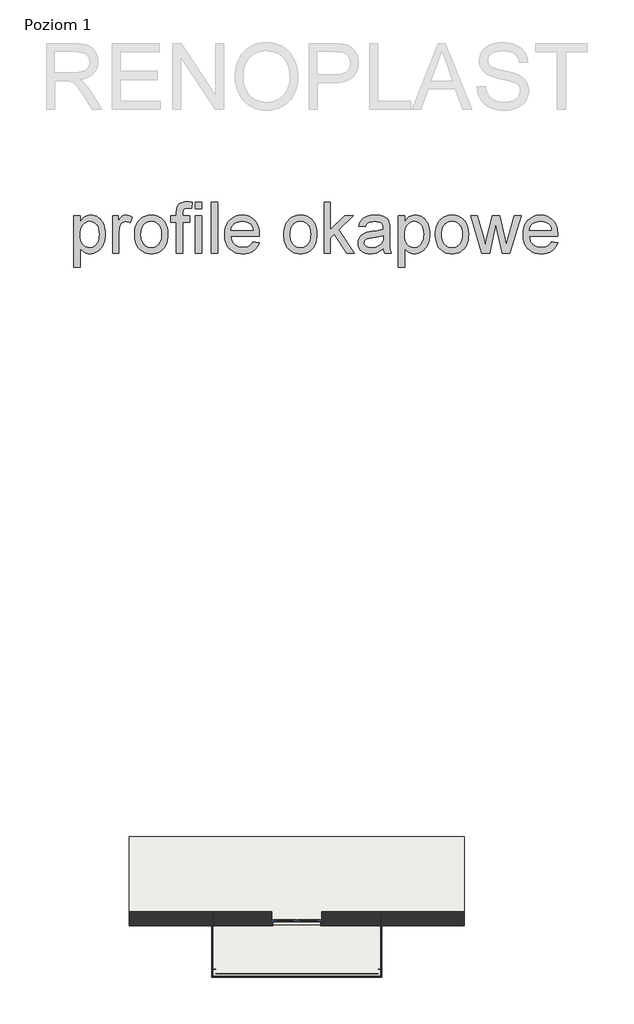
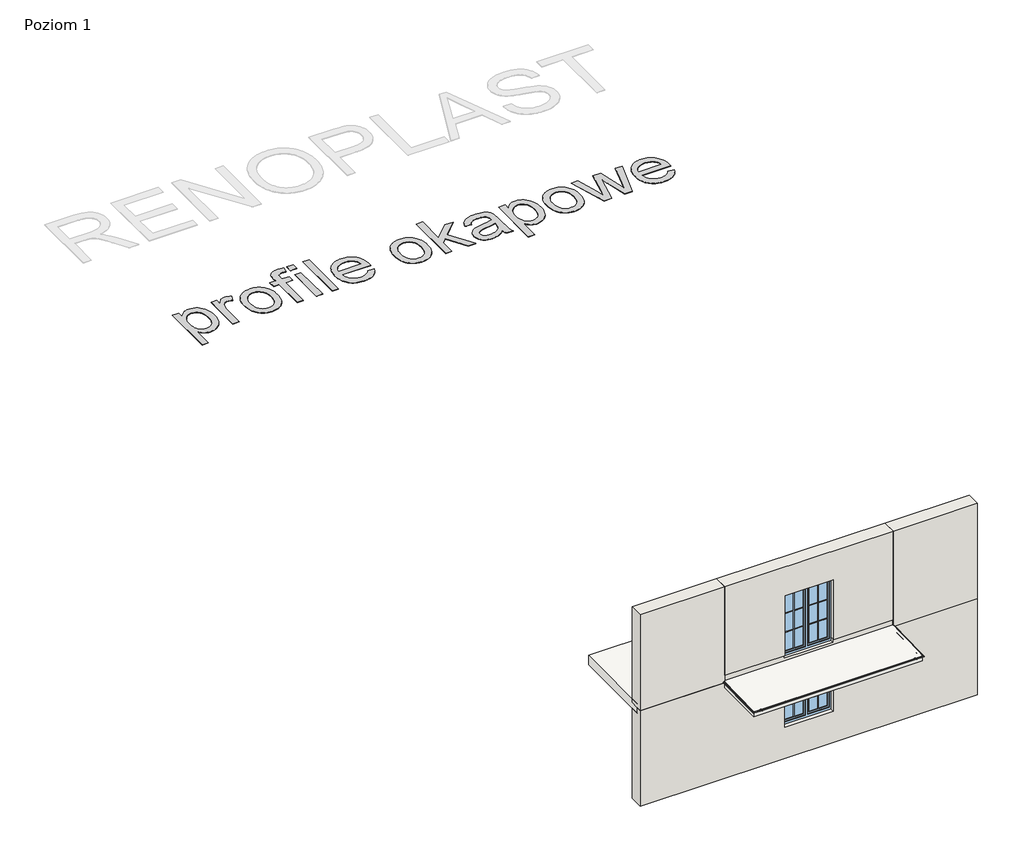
# One storey, part 1 of 2: 6 proxies, 5 walls, 3 slabs, 2 windows.
"""IFC4 building model written with IfcOpenShell, lengths in millimetres."""

from ifc_helpers import new_model, si_unit, origin, origin_with_axes, place, context, project, spatial, polyline, outline, extrude, faceted_brep, transform, mapped, element, save
from components import generic_models_af526118, generic_models_eb490aad, k20_9d933942, k20_2974e2ec, k20_afda6247, window_150x150_51b7f79a, window_150x200_12b14935

model = new_model("IFC4")

# Units and contexts
model_context = context("Model", 3, world=origin())
ifc_project = project(units=[si_unit("LENGTHUNIT", "METRE", prefix="MILLI")], contexts=[model_context])

# Site, building, storey
site = spatial("IfcSite", under=ifc_project)
building = spatial("IfcBuilding", under=site)
storey = spatial("IfcBuildingStorey", under=building, Name="Poziom 1", Elevation=0.0)

# Proxies
placement = place(None, origin())
generic_models_shape = generic_models_af526118(model_context)
element("IfcBuildingElementProxy", 1, Name="Odbojnik - OPK20 : Odbojnik - OPK20", ObjectType="Odbojnik - OPK20 : Odbojnik - OPK20", at=placement, inside=storey, context=model_context, shape_type="MappedRepresentation", body=[
    mapped(generic_models_shape, transform((-86485.0900811, 32535.0974799, -112.1027843), x_axis=(0.0, 0.9998044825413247, 0.019773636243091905), y_axis=(-1.0000000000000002, 0.0, 0.0), z_axis=(0.0, -0.019773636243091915, 0.9998044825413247))),
])
generic_models_2_shape = generic_models_eb490aad(model_context)
element("IfcBuildingElementProxy", 2, Name="Odbojnik - OPK20 : Odbojnik - OPK20", ObjectType="Odbojnik - OPK20 : Odbojnik - OPK20", at=placement, inside=storey, context=model_context, shape_type="MappedRepresentation", body=[
    mapped(generic_models_2_shape, transform((-91537.0894912, 32534.794121, -112.108784), x_axis=(0.0, 0.9998044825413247, 0.019773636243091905), y_axis=(-1.0000000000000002, 0.0, 0.0), z_axis=(0.0, -0.019773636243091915, 0.9998044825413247))),
])
element("IfcBuildingElementProxy", 3, Name="1500 mm Arial", ObjectType="1500 mm Arial", at=placement, inside=storey, context=model_context, shape_type="SweptSolid", body=[
    extrude(outline(polyline([(-95661.6221224, 52181.1583137), (-95661.6221224, 53711.5474137), (-95473.2665409, 53711.5474137), (-95473.2665409, 53526.8706521), (-95443.4680993, 53575.672498), (-95411.8302477, 53617.9674312), (-95378.3529862, 53653.7554515), (-95343.0363146, 53683.036559), (-95304.8685576, 53705.8107538), (-95262.8380397, 53722.0780358), (-95216.9447608, 53731.838405), (-95167.1887209, 53735.0918614), (-95101.4987922, 53730.5393217), (-95039.8095801, 53716.8817026), (-94982.1210847, 53694.1190042), (-94928.4333061, 53662.2512263), (-94879.9188679, 53622.1061036), (-94837.7503942, 53574.5113705), (-94801.927885, 53519.4670269), (-94772.4513401, 53456.973073), (-94749.4357228, 53389.1678228), (-94732.9959961, 53318.1895903), (-94723.1321601, 53244.0383757), (-94719.8442148, 53166.7141788), (-94723.5575237, 53084.0441967), (-94734.6974503, 53005.6278502), (-94753.2639948, 52931.4651392), (-94779.257157, 52861.5560638), (-94812.3205513, 52797.7285377), (-94852.0977921, 52741.8104744), (-94898.5888792, 52693.801874), (-94951.7938128, 52653.7027365), (-95009.1029298, 52622.0763813), (-95067.9065675, 52599.4861275), (-95128.2047258, 52585.9319752), (-95189.9974046, 52581.4139245), (-95234.4536445, 52584.4374546), (-95276.5876292, 52593.5080451), (-95316.3993589, 52608.6256958), (-95353.8888335, 52629.7904069), (-95388.5962005, 52655.5766355), (-95420.0616074, 52684.5588389), (-95448.2850542, 52716.7370172), (-95473.2665409, 52752.1111703), (-95473.2665409, 52181.1583137), (-95661.6221224, 52181.1583137)]), holes=[polyline([(-95473.2665409, 53149.423725), (-95468.1736745, 53058.6488427), (-95452.8950754, 52980.5658893), (-95441.4361261, 52946.2838858), (-95427.4307436, 52915.1748646), (-95410.8789279, 52887.2388256), (-95391.780679, 52862.4757688), (-95348.864945, 52821.9167788), (-95301.6036049, 52792.9460717), (-95249.9966588, 52775.5636474), (-95194.0441066, 52769.769506), (-95137.2868125, 52775.7705811), (-95110.4860343, 52783.2719249), (-95084.7371688, 52793.7738062), (-95036.3951753, 52823.7791814), (-94992.2608322, 52865.7867068), (-94972.5590269, 52891.4407278), (-94955.484129, 52920.3941904), (-94941.0361385, 52952.6470947), (-94929.2150553, 52988.1994407), (-94920.0208795, 53027.0512282), (-94913.4536111, 53069.2024575), (-94908.1997963, 53163.4032409), (-94913.3271516, 53253.3963739), (-94928.7092176, 53331.3413717), (-94940.245767, 53365.7958198), (-94954.3459941, 53397.238234), (-94971.0098988, 53425.6686145), (-94990.2374812, 53451.0869611), (-95033.2566821, 53492.933538), (-95080.2765996, 53522.8239501), (-95131.2972338, 53540.7581974), (-95186.3185847, 53546.7362798), (-95214.1482828, 53545.1469147), (-95241.1674909, 53540.3788191), (-95267.376209, 53532.4319932), (-95292.774437, 53521.3064369), (-95341.1394231, 53489.5191333), (-95386.2624491, 53445.0169082), (-95406.6540331, 53418.1471521), (-95424.3267392, 53388.3975698), (-95439.2805675, 53355.7681613), (-95451.515518, 53320.2589266), (-95461.0315905, 53281.8698655), (-95467.8287852, 53240.6009783), (-95473.2665409, 53149.423725)])]), origin_with_axes(), (0.0, 0.0, 1.0), 10.0),
    extrude(outline(polyline([(-94507.9441856, 52604.9583722), (-94507.9441856, 53711.5474137), (-94343.1330517, 53711.5474137), (-94343.1330517, 53547.8399258), (-94312.0930084, 53600.1711396), (-94282.2485815, 53642.7534806), (-94253.5997712, 53675.5869486), (-94226.1465773, 53698.6715438), (-94198.6473981, 53714.6054328), (-94169.860632, 53725.986782), (-94139.7862789, 53732.8155915), (-94108.4243388, 53735.0918614), (-94061.7033254, 53731.4590267), (-94014.61443, 53720.5605226), (-93967.1576527, 53702.396349), (-93919.3329933, 53676.9665061), (-93982.2408145, 53508.1086703), (-94015.350194, 53525.0082495), (-94048.4595736, 53537.0793775), (-94081.5689532, 53544.3220542), (-94114.6783327, 53546.7362798), (-94143.545573, 53544.4140247), (-94170.9182927, 53537.4472595), (-94196.7964918, 53525.835984), (-94221.1801703, 53509.5801983), (-94243.1496232, 53489.2087328), (-94261.7851455, 53465.2504179), (-94277.0867373, 53437.7052535), (-94289.0543984, 53406.5732397), (-94302.4131134, 53355.1617308), (-94311.9550526, 53301.3589891), (-94317.6802162, 53245.1650143), (-94319.588604, 53186.5798066), (-94319.588604, 52604.9583722), (-94507.9441856, 52604.9583722)])), origin_with_axes(), (0.0, 0.0, 1.0), 10.0),
    extrude(outline(polyline([(-93848.6996502, 53158.2528929), (-93846.153217, 53232.3868631), (-93838.5139175, 53301.5659227), (-93825.7817515, 53365.7900716), (-93807.9567192, 53425.0593099), (-93785.0388206, 53479.3736376), (-93757.0280555, 53528.7330547), (-93723.9244241, 53573.1375611), (-93685.7279264, 53612.587157), (-93650.7676405, 53641.2991971), (-93613.944952, 53666.1829651), (-93575.259861, 53687.2384612), (-93534.7123673, 53704.4656853), (-93492.3024711, 53717.8646373), (-93448.0301722, 53727.4353173), (-93401.8954708, 53733.1777254), (-93353.8983667, 53735.0918614), (-93300.6963072, 53732.760984), (-93249.9831994, 53725.768352), (-93201.7590432, 53714.1139654), (-93156.0238385, 53697.7978241), (-93112.7775856, 53676.8199281), (-93072.0202842, 53651.1802775), (-93033.7519345, 53620.8788723), (-92997.9725364, 53585.9157123), (-92965.5960467, 53546.8426207), (-92937.5364223, 53504.2114205), (-92913.7936633, 53458.0221115), (-92894.3677695, 53408.2746939), (-92879.258741, 53354.9691676), (-92868.4665778, 53298.1055327), (-92861.9912798, 53237.683789), (-92859.8328472, 53173.7039367), (-92863.6496229, 53072.8812774), (-92875.09995, 52983.4169747), (-92894.1838285, 52905.3110286), (-92920.9012584, 52838.5634391), (-92954.9188466, 52780.9094327), (-92995.9032001, 52730.0842358), (-93043.854319, 52686.0878484), (-93098.772203, 52648.9202706), (-93158.5185383, 52619.3862442), (-93220.9550107, 52598.290511), (-93286.0816202, 52585.6330711), (-93353.8983667, 52581.4139245), (-93407.939657, 52583.7361796), (-93459.3310473, 52590.7029449), (-93508.0725375, 52602.3142203), (-93554.1641278, 52618.570006), (-93597.6058181, 52639.4703019), (-93638.3976084, 52665.0151079), (-93676.5394987, 52695.2044241), (-93712.031489, 52730.0382505), (-93744.0630893, 52769.2406757), (-93771.8238095, 52812.535788), (-93795.3136497, 52859.9235875), (-93814.5326099, 52911.4040742), (-93829.48069, 52966.9772481), (-93840.1578901, 53026.6431092), (-93846.5642102, 53090.4016574), (-93848.6996502, 53158.2528929)]), holes=[polyline([(-93660.3440687, 53158.6207749), (-93654.8948166, 53067.2595807), (-93648.0832516, 53026.1746344), (-93638.5470605, 52988.1534554), (-93626.2862433, 52953.1960436), (-93611.3008002, 52921.3023991), (-93593.590731, 52892.4725218), (-93573.1560358, 52866.7064118), (-93550.6577526, 52843.9868245), (-93526.7569192, 52824.2965155), (-93501.4535357, 52807.6354848), (-93474.7476021, 52794.0037325), (-93446.6391184, 52783.4012584), (-93417.1280846, 52775.8280626), (-93353.8983667, 52769.769506), (-93290.9905455, 52775.8625516), (-93261.6059712, 52783.4788585), (-93233.6009543, 52794.1416882), (-93206.9754949, 52807.8510407), (-93181.729593, 52824.6069159), (-93157.8632485, 52844.4093139), (-93135.3764616, 52867.2582347), (-93114.9417664, 52893.2284043), (-93097.2316972, 52922.3945488), (-93082.246254, 52954.756668), (-93069.9854369, 52990.3147621), (-93060.4492458, 53029.0688311), (-93053.6376808, 53071.0188748), (-93048.1884287, 53164.5068868), (-93053.6721697, 53252.9710104), (-93060.5268459, 53292.9178217), (-93070.1233927, 53330.0077994), (-93082.4618099, 53364.2409435), (-93097.5420976, 53395.617254), (-93115.3642558, 53424.1367309), (-93135.9282846, 53449.7993741), (-93182.4538606, 53492.2092704), (-93207.7083848, 53508.870301), (-93234.290733, 53522.5020534), (-93262.2009053, 53533.1045275), (-93291.4389017, 53540.6777232), (-93353.8983667, 53546.7362798), (-93417.1280846, 53540.7007159), (-93446.6391184, 53533.1562609), (-93474.7476021, 53522.5940239), (-93501.4535357, 53509.0140049), (-93526.7569192, 53492.416204), (-93550.6577526, 53472.800621), (-93573.1560358, 53450.1672561), (-93593.590731, 53424.4873684), (-93611.3008002, 53395.7322171), (-93626.2862433, 53363.9018023), (-93638.5470605, 53328.9961239), (-93648.0832516, 53291.015182), (-93654.8948166, 53249.9589765), (-93660.3440687, 53158.6207749)])]), origin_with_axes(), (0.0, 0.0, 1.0), 10.0),
    extrude(outline(polyline([(-92600.8439226, 52604.9583722), (-92600.8439226, 53523.1918321), (-92765.6550564, 53523.1918321), (-92765.6550564, 53711.5474137), (-92600.8439226, 53711.5474137), (-92600.8439226, 53823.0156582), (-92595.8775156, 53915.2620685), (-92589.669507, 53951.1075704), (-92580.9782948, 53980.1012702), (-92564.6075461, 54013.0497013), (-92543.0864493, 54042.7331798), (-92516.4150047, 54069.1517056), (-92484.5932121, 54092.3052787), (-92446.9312928, 54111.1362383), (-92402.7394682, 54124.5869238), (-92352.0177381, 54132.657335), (-92294.7661026, 54135.3474721), (-92213.0043292, 54130.1971242), (-92122.9652108, 54114.7460804), (-92150.5563605, 53938.1627227), (-92206.3824532, 53944.7845986), (-92259.0815491, 53946.9918906), (-92297.9505811, 53945.0375175), (-92330.6805824, 53939.1743982), (-92357.2715528, 53929.4025327), (-92377.7234925, 53915.721921), (-92392.9331137, 53896.7070204), (-92403.7971289, 53870.9322881), (-92410.315538, 53838.3977241), (-92412.488341, 53799.1033285), (-92412.488341, 53711.5474137), (-92200.5883118, 53711.5474137), (-92200.5883118, 53523.1918321), (-92412.488341, 53523.1918321), (-92412.488341, 52604.9583722), (-92600.8439226, 52604.9583722)])), origin_with_axes(), (0.0, 0.0, 1.0), 10.0),
    extrude(outline(polyline([(-92035.777178, 52604.9583722), (-92035.777178, 53711.5474137), (-91847.4215965, 53711.5474137), (-91847.4215965, 52604.9583722), (-92035.777178, 52604.9583722)])), origin_with_axes(), (0.0, 0.0, 1.0), 10.0),
    extrude(outline(polyline([(-92035.777178, 53923.4474429), (-92035.777178, 54111.8030244), (-91847.4215965, 54111.8030244), (-91847.4215965, 53923.4474429), (-92035.777178, 53923.4474429)])), origin_with_axes(), (0.0, 0.0, 1.0), 10.0),
    extrude(outline(polyline([(-91564.8882242, 52604.9583722), (-91564.8882242, 54111.8030244), (-91376.5326426, 54111.8030244), (-91376.5326426, 52604.9583722), (-91564.8882242, 52604.9583722)])), origin_with_axes(), (0.0, 0.0, 1.0), 10.0),
    extrude(outline(polyline([(-90319.2397885, 52934.5806399), (-90134.5630269, 52911.0361922), (-90162.8784442, 52837.0689185), (-90180.7523359, 52803.3789752), (-90201.1036828, 52771.8848275), (-90223.932485, 52742.5864755), (-90249.2387426, 52715.4839191), (-90277.0224555, 52690.5771584), (-90307.2836236, 52667.8661934), (-90339.8727951, 52647.6039428), (-90374.6405177, 52630.0433257), (-90411.5867915, 52615.184342), (-90450.7116165, 52603.0269917), (-90535.4969201, 52586.8171913), (-90628.9964284, 52581.4139245), (-90689.0244234, 52583.7448018), (-90745.8679398, 52590.7374338), (-90799.5269777, 52602.3918205), (-90850.001537, 52618.7079618), (-90897.2916179, 52639.6858577), (-90941.3972202, 52665.3255083), (-90982.318344, 52695.6269136), (-91020.0549893, 52730.5900735), (-91053.94037, 52769.7608838), (-91083.3076998, 52812.68524), (-91108.156979, 52859.3631422), (-91128.4882074, 52909.7945904), (-91144.301385, 52963.9795846), (-91155.5965119, 53021.9181248), (-91162.373588, 53083.6102109), (-91164.6326134, 53149.055843), (-91162.3505954, 53216.7288857), (-91155.5045414, 53280.5046785), (-91144.0944514, 53340.3832213), (-91128.1203254, 53396.3645143), (-91107.5821634, 53448.4485574), (-91082.4799654, 53496.6353506), (-91052.8137313, 53540.9248939), (-91018.5834613, 53581.3171874), (-90980.7146084, 53617.3581266), (-90940.1326258, 53648.5936072), (-90896.8375135, 53675.0236293), (-90850.8292715, 53696.6481929), (-90802.1078998, 53713.4672978), (-90750.6733983, 53725.4809442), (-90696.5257672, 53732.6891321), (-90639.6650063, 53735.0918614), (-90584.6637739, 53732.6948802), (-90532.2319674, 53725.5039369), (-90482.3695866, 53713.5190312), (-90435.0766317, 53696.7401634), (-90390.3531026, 53675.1673332), (-90348.1989993, 53648.8005409), (-90308.6143218, 53617.6397862), (-90271.5990701, 53581.6850694), (-90238.10169, 53541.3847464), (-90209.0706272, 53497.1871736), (-90184.5058818, 53449.0923509), (-90164.4074538, 53397.1002783), (-90148.7753431, 53341.2109558), (-90137.6095497, 53281.4243834), (-90130.9100737, 53217.7405612), (-90128.676915, 53150.159489), (-90129.780561, 53099.3917737), (-90976.2770319, 53099.3917737), (-90965.3670315, 53024.2288836), (-90955.8682034, 52990.1480656), (-90943.6734901, 52958.400999), (-90928.7828915, 52928.9876839), (-90911.1964077, 52901.9081202), (-90890.9140386, 52877.1623078), (-90867.9357843, 52854.7502469), (-90816.2828529, 52817.5711728), (-90758.6288465, 52791.0146912), (-90694.973765, 52775.0808023), (-90625.3176085, 52769.769506), (-90573.2163209, 52772.2297169), (-90525.0697648, 52779.6103494), (-90480.8779401, 52791.9114036), (-90440.6408469, 52809.1328795), (-90404.3584851, 52831.7346296), (-90372.0308548, 52860.1765063), (-90343.6579559, 52894.4585098), (-90319.2397885, 52934.5806399)]), holes=[polyline([(-90976.2770319, 53287.7473552), (-90317.0324965, 53287.7473552), (-90326.7123915, 53341.0442593), (-90342.5083247, 53387.2594349), (-90364.420296, 53426.3928822), (-90392.4483055, 53458.444601), (-90417.2458513, 53479.1379632), (-90443.8138291, 53497.0722105), (-90472.152239, 53512.2473428), (-90502.2610811, 53524.6633601), (-90567.7900615, 53541.2180499), (-90640.4007703, 53546.7362798), (-90706.6310257, 53542.3331922), (-90767.3660439, 53529.1239293), (-90822.6058247, 53507.1084912), (-90872.3503682, 53476.2868778), (-90914.0934784, 53438.0846318), (-90945.328959, 53393.9272961), (-90966.0568102, 53343.8148706), (-90976.2770319, 53287.7473552)])]), origin_with_axes(), (0.0, 0.0, 1.0), 10.0),
    extrude(outline(polyline([(-89398.7990366, 53158.2528929), (-89396.2526034, 53232.3868631), (-89388.6133038, 53301.5659227), (-89375.8811379, 53365.7900716), (-89358.0561056, 53425.0593099), (-89335.1382069, 53479.3736376), (-89307.1274419, 53528.7330547), (-89274.0238105, 53573.1375611), (-89235.8273127, 53612.587157), (-89200.8670268, 53641.2991971), (-89164.0443384, 53666.1829651), (-89125.3592473, 53687.2384612), (-89084.8117537, 53704.4656853), (-89042.4018574, 53717.8646373), (-88998.1295586, 53727.4353173), (-88951.9948571, 53733.1777254), (-88903.997753, 53735.0918614), (-88850.7956936, 53732.760984), (-88800.0825857, 53725.768352), (-88751.8584295, 53714.1139654), (-88706.1232249, 53697.7978241), (-88662.8769719, 53676.8199281), (-88622.1196706, 53651.1802775), (-88583.8513208, 53620.8788723), (-88548.0719227, 53585.9157123), (-88515.6954331, 53546.8426207), (-88487.6358087, 53504.2114205), (-88463.8930496, 53458.0221115), (-88444.4671558, 53408.2746939), (-88429.3581273, 53354.9691676), (-88418.5659641, 53298.1055327), (-88412.0906662, 53237.683789), (-88409.9322335, 53173.7039367), (-88413.7490092, 53072.8812774), (-88425.1993363, 52983.4169747), (-88444.2832148, 52905.3110286), (-88471.0006447, 52838.5634391), (-88505.018233, 52780.9094327), (-88546.0025865, 52730.0842358), (-88593.9537053, 52686.0878484), (-88648.8715894, 52648.9202706), (-88708.6179247, 52619.3862442), (-88771.054397, 52598.290511), (-88836.1810065, 52585.6330711), (-88903.997753, 52581.4139245), (-88958.0390433, 52583.7361796), (-89009.4304336, 52590.7029449), (-89058.1719239, 52602.3142203), (-89104.2635142, 52618.570006), (-89147.7052045, 52639.4703019), (-89188.4969948, 52665.0151079), (-89226.638885, 52695.2044241), (-89262.1308753, 52730.0382505), (-89294.1624756, 52769.2406757), (-89321.9231959, 52812.535788), (-89345.4130361, 52859.9235875), (-89364.6319963, 52911.4040742), (-89379.5800764, 52966.9772481), (-89390.2572765, 53026.6431092), (-89396.6635965, 53090.4016574), (-89398.7990366, 53158.2528929)]), holes=[polyline([(-89210.443455, 53158.6207749), (-89204.994203, 53067.2595807), (-89198.1826379, 53026.1746344), (-89188.6464468, 52988.1534554), (-89176.3856297, 52953.1960436), (-89161.4001865, 52921.3023991), (-89143.6901174, 52892.4725218), (-89123.2554222, 52866.7064118), (-89100.7571389, 52843.9868245), (-89076.8563055, 52824.2965155), (-89051.552922, 52807.6354848), (-89024.8469885, 52794.0037325), (-88996.7385048, 52783.4012584), (-88967.227471, 52775.8280626), (-88903.997753, 52769.769506), (-88841.0899319, 52775.8625516), (-88811.7053575, 52783.4788585), (-88783.7003406, 52794.1416882), (-88757.0748812, 52807.8510407), (-88731.8289793, 52824.6069159), (-88707.9626349, 52844.4093139), (-88685.4758479, 52867.2582347), (-88665.0411527, 52893.2284043), (-88647.3310835, 52922.3945488), (-88632.3456404, 52954.756668), (-88620.0848233, 52990.3147621), (-88610.5486322, 53029.0688311), (-88603.7370671, 53071.0188748), (-88598.2878151, 53164.5068868), (-88603.771556, 53252.9710104), (-88610.6262323, 53292.9178217), (-88620.222779, 53330.0077994), (-88632.5611962, 53364.2409435), (-88647.641484, 53395.617254), (-88665.4636422, 53424.1367309), (-88686.0276709, 53449.7993741), (-88732.553247, 53492.2092704), (-88757.8077711, 53508.870301), (-88784.3901194, 53522.5020534), (-88812.3002917, 53533.1045275), (-88841.5382881, 53540.6777232), (-88903.997753, 53546.7362798), (-88967.227471, 53540.7007159), (-88996.7385048, 53533.1562609), (-89024.8469885, 53522.5940239), (-89051.552922, 53509.0140049), (-89076.8563055, 53492.416204), (-89100.7571389, 53472.800621), (-89123.2554222, 53450.1672561), (-89143.6901174, 53424.4873684), (-89161.4001865, 53395.7322171), (-89176.3856297, 53363.9018023), (-89188.6464468, 53328.9961239), (-89198.1826379, 53291.015182), (-89204.994203, 53249.9589765), (-89210.443455, 53158.6207749)])]), origin_with_axes(), (0.0, 0.0, 1.0), 10.0),
    extrude(outline(polyline([(-88198.0322043, 52604.9583722), (-88198.0322043, 54111.8030244), (-88009.6766228, 54111.8030244), (-88009.6766228, 53302.094753), (-87587.3480923, 53711.5474137), (-87326.8876397, 53711.5474137), (-87754.3665181, 53296.9444051), (-87303.343192, 52604.9583722), (-87523.3366251, 52604.9583722), (-87889.3792103, 53165.9784148), (-88009.6766228, 53049.3598224), (-88009.6766228, 52604.9583722), (-88198.0322043, 52604.9583722)])), origin_with_axes(), (0.0, 0.0, 1.0), 10.0),
    extrude(outline(polyline([(-86432.1986275, 52746.2250583), (-86476.8618009, 52704.3095035), (-86522.1917605, 52669.0618098), (-86568.1885062, 52640.4819773), (-86614.8520381, 52618.570006), (-86662.7111864, 52602.3142203), (-86712.2947815, 52590.7029449), (-86763.6028235, 52583.7361796), (-86816.6353124, 52581.4139245), (-86900.500911, 52587.0011323), (-86938.5623271, 52593.985142), (-86974.0428211, 52603.7627557), (-87006.942393, 52616.3339733), (-87037.2610427, 52631.6987947), (-87064.9987703, 52649.8572201), (-87090.1555758, 52670.8092493), (-87112.5302737, 52693.9340816), (-87131.9216786, 52718.6109161), (-87148.3297904, 52744.8397527), (-87161.7546091, 52772.6205915), (-87172.1961348, 52801.9534324), (-87179.6543675, 52832.8382756), (-87185.6209536, 52899.2639683), (-87183.3676764, 52939.2021574), (-87176.6078447, 52977.3469218), (-87165.3414586, 53013.6982614), (-87149.568518, 53048.2561764), (-87130.1282539, 53080.26191), (-87107.8598968, 53108.9567056), (-87082.763447, 53134.3405632), (-87054.8389043, 53156.413483), (-86992.5288914, 53192.2819775), (-86922.953209, 53218.2176581), (-86855.1709514, 53232.6570265), (-86759.9814852, 53246.5445718), (-86656.3767183, 53260.7999991), (-86567.3952607, 53276.3430134), (-86493.0371124, 53293.1736147), (-86433.3022734, 53311.2918029), (-86432.1986275, 53353.2303504), (-86435.4405875, 53398.893703), (-86445.1664678, 53437.2913863), (-86461.3762682, 53468.4234001), (-86484.0699888, 53492.2897445), (-86523.2954065, 53516.1101037), (-86571.0740806, 53533.124646), (-86627.4060111, 53543.3333714), (-86692.291198, 53546.7362798), (-86752.6238452, 53544.4715063), (-86804.4952066, 53537.6771857), (-86847.905282, 53526.353318), (-86882.8540715, 53510.4999033), (-86911.5718598, 53488.8753398), (-86936.2889313, 53460.2380257), (-86957.0052862, 53424.5879611), (-86973.7209244, 53381.925146), (-87162.0765059, 53405.4695937), (-87147.7406044, 53459.732188), (-87129.3809936, 53508.4765523), (-87106.9976734, 53551.7026868), (-87080.590644, 53589.4105913), (-87049.0217702, 53622.3590225), (-87011.1529174, 53651.306737), (-86966.9840853, 53676.2537348), (-86916.5152741, 53697.2000159), (-86860.7696555, 53713.7776983), (-86800.7704014, 53725.6189), (-86736.5175116, 53732.723621), (-86668.0109864, 53735.0918614), (-86601.0449669, 53732.9995325), (-86540.6778308, 53726.722546), (-86486.9095779, 53716.2609017), (-86439.7402084, 53701.6145998), (-86398.7788475, 53683.806812), (-86363.6346206, 53663.86071), (-86334.3075278, 53641.776294), (-86310.797569, 53617.5535639), (-86291.7366832, 53590.5947114), (-86275.756809, 53560.3019284), (-86262.8579465, 53526.6752148), (-86253.0400958, 53489.7145706), (-86246.1423084, 53424.5994574), (-86243.8430459, 53324.9034367), (-86243.8430459, 53090.5626058), (-86241.451813, 52886.4340837), (-86234.278114, 52763.3315711), (-86220.1146572, 52682.4435174), (-86196.7541505, 52604.9583722), (-86385.1097321, 52604.9583722), (-86401.8483628, 52636.4122828), (-86415.2760557, 52670.4413673), (-86425.3928105, 52707.0456258), (-86432.1986275, 52746.2250583)]), holes=[polyline([(-86432.1986275, 53122.9362214), (-86489.1283662, 53106.6344505), (-86558.7500338, 53091.5742813), (-86736.0691555, 53065.1787481), (-86833.7878104, 53050.7393798), (-86898.1211743, 53034.6445425), (-86940.289648, 53013.7672393), (-86957.2697014, 53000.3625391), (-86971.5136324, 52984.9804732), (-86982.7800185, 52968.1728645), (-86990.8274371, 52950.4915362), (-86995.6558883, 52931.936488), (-86997.265372, 52912.5077201), (-86993.7589968, 52883.2381089), (-86983.239871, 52856.4976864), (-86965.7079946, 52832.2864526), (-86941.1633678, 52810.6044075), (-86909.8359166, 52792.7391381), (-86871.9555674, 52779.9782314), (-86827.5223202, 52772.3216874), (-86776.5361749, 52769.769506), (-86724.4808726, 52772.5861025), (-86675.3686263, 52781.0358921), (-86629.1994359, 52795.1188748), (-86585.9733014, 52814.8350504), (-86546.9778099, 52838.5519428), (-86513.5005484, 52864.6370755), (-86485.5415168, 52893.0904486), (-86463.100715, 52923.912062), (-86450.0638968, 52951.5032116), (-86440.7518838, 52984.9804732), (-86435.164676, 53024.3438467), (-86433.3022734, 53069.5933321), (-86432.1986275, 53122.9362214)])]), origin_with_axes(), (0.0, 0.0, 1.0), 10.0),
    extrude(outline(polyline([(-85984.8541213, 52181.1583137), (-85984.8541213, 53711.5474137), (-85796.4985398, 53711.5474137), (-85796.4985398, 53526.8706521), (-85766.7000982, 53575.672498), (-85735.0622466, 53617.9674312), (-85701.584985, 53653.7554515), (-85666.2683135, 53683.036559), (-85628.1005565, 53705.8107538), (-85586.0700385, 53722.0780358), (-85540.1767596, 53731.838405), (-85490.4207198, 53735.0918614), (-85424.730791, 53730.5393217), (-85363.041579, 53716.8817026), (-85305.3530836, 53694.1190042), (-85251.6653049, 53662.2512263), (-85203.1508668, 53622.1061036), (-85160.9823931, 53574.5113705), (-85125.1598838, 53519.4670269), (-85095.683339, 53456.973073), (-85072.6677217, 53389.1678228), (-85056.227995, 53318.1895903), (-85046.364159, 53244.0383757), (-85043.0762137, 53166.7141788), (-85046.7895226, 53084.0441967), (-85057.9294492, 53005.6278502), (-85076.4959937, 52931.4651392), (-85102.4891559, 52861.5560638), (-85135.5525502, 52797.7285377), (-85175.3297909, 52741.8104744), (-85221.8208781, 52693.801874), (-85275.0258116, 52653.7027365), (-85332.3349287, 52622.0763813), (-85391.1385664, 52599.4861275), (-85451.4367246, 52585.9319752), (-85513.2294035, 52581.4139245), (-85557.6856434, 52584.4374546), (-85599.8196281, 52593.5080451), (-85639.6313578, 52608.6256958), (-85677.1208324, 52629.7904069), (-85711.8281993, 52655.5766355), (-85743.2936062, 52684.5588389), (-85771.5170531, 52716.7370172), (-85796.4985398, 52752.1111703), (-85796.4985398, 52181.1583137), (-85984.8541213, 52181.1583137)]), holes=[polyline([(-85796.4985398, 53149.423725), (-85791.4056734, 53058.6488427), (-85776.1270743, 52980.5658893), (-85764.668125, 52946.2838858), (-85750.6627424, 52915.1748646), (-85734.1109267, 52887.2388256), (-85715.0126779, 52862.4757688), (-85672.0969439, 52821.9167788), (-85624.8356038, 52792.9460717), (-85573.2286577, 52775.5636474), (-85517.2761054, 52769.769506), (-85460.5188114, 52775.7705811), (-85433.7180332, 52783.2719249), (-85407.9691676, 52793.7738062), (-85359.6271742, 52823.7791814), (-85315.4928311, 52865.7867068), (-85295.7910258, 52891.4407278), (-85278.7161279, 52920.3941904), (-85264.2681373, 52952.6470947), (-85252.4470542, 52988.1994407), (-85243.2528784, 53027.0512282), (-85236.6856099, 53069.2024575), (-85231.4317952, 53163.4032409), (-85236.5591505, 53253.3963739), (-85251.9412164, 53331.3413717), (-85263.4777659, 53365.7958198), (-85277.577993, 53397.238234), (-85294.2418977, 53425.6686145), (-85313.4694801, 53451.0869611), (-85356.4886809, 53492.933538), (-85403.5085984, 53522.8239501), (-85454.5292326, 53540.7581974), (-85509.5505835, 53546.7362798), (-85537.3802817, 53545.1469147), (-85564.3994898, 53540.3788191), (-85590.6082078, 53532.4319932), (-85616.0064359, 53521.3064369), (-85664.371422, 53489.5191333), (-85709.4944479, 53445.0169082), (-85729.886032, 53418.1471521), (-85747.5587381, 53388.3975698), (-85762.5125664, 53355.7681613), (-85774.7475168, 53320.2589266), (-85784.2635894, 53281.8698655), (-85791.060784, 53240.6009783), (-85796.4985398, 53149.423725)])]), origin_with_axes(), (0.0, 0.0, 1.0), 10.0),
    extrude(outline(polyline([(-84878.2650798, 53158.2528929), (-84875.7186466, 53232.3868631), (-84868.0793471, 53301.5659227), (-84855.3471812, 53365.7900716), (-84837.5221489, 53425.0593099), (-84814.6042502, 53479.3736376), (-84786.5934852, 53528.7330547), (-84753.4898537, 53573.1375611), (-84715.293356, 53612.587157), (-84680.3330701, 53641.2991971), (-84643.5103817, 53666.1829651), (-84604.8252906, 53687.2384612), (-84564.2777969, 53704.4656853), (-84521.8679007, 53717.8646373), (-84477.5956018, 53727.4353173), (-84431.4609004, 53733.1777254), (-84383.4637963, 53735.0918614), (-84330.2617368, 53732.760984), (-84279.548629, 53725.768352), (-84231.3244728, 53714.1139654), (-84185.5892682, 53697.7978241), (-84142.3430152, 53676.8199281), (-84101.5857138, 53651.1802775), (-84063.3173641, 53620.8788723), (-84027.537966, 53585.9157123), (-83995.1614763, 53546.8426207), (-83967.101852, 53504.2114205), (-83943.3590929, 53458.0221115), (-83923.9331991, 53408.2746939), (-83908.8241706, 53354.9691676), (-83898.0320074, 53298.1055327), (-83891.5567094, 53237.683789), (-83889.3982768, 53173.7039367), (-83893.2150525, 53072.8812774), (-83904.6653796, 52983.4169747), (-83923.7492581, 52905.3110286), (-83950.466688, 52838.5634391), (-83984.4842762, 52780.9094327), (-84025.4686298, 52730.0842358), (-84073.4197486, 52686.0878484), (-84128.3376327, 52648.9202706), (-84188.0839679, 52619.3862442), (-84250.5204403, 52598.290511), (-84315.6470498, 52585.6330711), (-84383.4637963, 52581.4139245), (-84437.5050866, 52583.7361796), (-84488.8964769, 52590.7029449), (-84537.6379671, 52602.3142203), (-84583.7295574, 52618.570006), (-84627.1712477, 52639.4703019), (-84667.963038, 52665.0151079), (-84706.1049283, 52695.2044241), (-84741.5969186, 52730.0382505), (-84773.6285189, 52769.2406757), (-84801.3892391, 52812.535788), (-84824.8790794, 52859.9235875), (-84844.0980395, 52911.4040742), (-84859.0461197, 52966.9772481), (-84869.7233197, 53026.6431092), (-84876.1296398, 53090.4016574), (-84878.2650798, 53158.2528929)]), holes=[polyline([(-84689.9094983, 53158.6207749), (-84684.4602462, 53067.2595807), (-84677.6486812, 53026.1746344), (-84668.1124901, 52988.1534554), (-84655.851673, 52953.1960436), (-84640.8662298, 52921.3023991), (-84623.1561606, 52892.4725218), (-84602.7214654, 52866.7064118), (-84580.2231822, 52843.9868245), (-84556.3223488, 52824.2965155), (-84531.0189653, 52807.6354848), (-84504.3130317, 52794.0037325), (-84476.204548, 52783.4012584), (-84446.6935142, 52775.8280626), (-84383.4637963, 52769.769506), (-84320.5559751, 52775.8625516), (-84291.1714008, 52783.4788585), (-84263.1663839, 52794.1416882), (-84236.5409245, 52807.8510407), (-84211.2950226, 52824.6069159), (-84187.4286781, 52844.4093139), (-84164.9418912, 52867.2582347), (-84144.507196, 52893.2284043), (-84126.7971268, 52922.3945488), (-84111.8116837, 52954.756668), (-84099.5508665, 52990.3147621), (-84090.0146754, 53029.0688311), (-84083.2031104, 53071.0188748), (-84077.7538583, 53164.5068868), (-84083.2375993, 53252.9710104), (-84090.0922755, 53292.9178217), (-84099.6888223, 53330.0077994), (-84112.0272395, 53364.2409435), (-84127.1075272, 53395.617254), (-84144.9296855, 53424.1367309), (-84165.4937142, 53449.7993741), (-84212.0192902, 53492.2092704), (-84237.2738144, 53508.870301), (-84263.8561626, 53522.5020534), (-84291.7663349, 53533.1045275), (-84321.0043313, 53540.6777232), (-84383.4637963, 53546.7362798), (-84446.6935142, 53540.7007159), (-84476.204548, 53533.1562609), (-84504.3130317, 53522.5940239), (-84531.0189653, 53509.0140049), (-84556.3223488, 53492.416204), (-84580.2231822, 53472.800621), (-84602.7214654, 53450.1672561), (-84623.1561606, 53424.4873684), (-84640.8662298, 53395.7322171), (-84655.851673, 53363.9018023), (-84668.1124901, 53328.9961239), (-84677.6486812, 53291.015182), (-84684.4602462, 53249.9589765), (-84689.9094983, 53158.6207749)])]), origin_with_axes(), (0.0, 0.0, 1.0), 10.0),
    extrude(outline(polyline([(-83493.925132, 52604.9583722), (-83830.5371576, 53711.5474137), (-83634.8239361, 53711.5474137), (-83443.8931806, 53065.9145121), (-83386.8714714, 52835.2525012), (-83340.150458, 53057.4532262), (-83188.215194, 53711.5474137), (-82963.8071769, 53711.5474137), (-82812.6076769, 53059.2926362), (-82771.0370115, 52858.0611849), (-82711.4401282, 53070.3290961), (-82520.1414907, 53711.5474137), (-82323.6925053, 53711.5474137), (-82662.8797049, 52604.9583722), (-82890.5986599, 52604.9583722), (-83035.176284, 53253.9022117), (-83077.1148314, 53456.237309), (-83263.631003, 52604.9583722), (-83493.925132, 52604.9583722)])), origin_with_axes(), (0.0, 0.0, 1.0), 10.0),
    extrude(outline(polyline([(-81419.4385612, 52934.5806399), (-81234.7617996, 52911.0361922), (-81263.0772169, 52837.0689185), (-81280.9511085, 52803.3789752), (-81301.3024555, 52771.8848275), (-81324.1312577, 52742.5864755), (-81349.4375153, 52715.4839191), (-81377.2212281, 52690.5771584), (-81407.4823963, 52667.8661934), (-81440.0715678, 52647.6039428), (-81474.8392904, 52630.0433257), (-81511.7855642, 52615.184342), (-81550.9103892, 52603.0269917), (-81635.6956928, 52586.8171913), (-81729.1952011, 52581.4139245), (-81789.223196, 52583.7448018), (-81846.0667125, 52590.7374338), (-81899.7257503, 52602.3918205), (-81950.2003097, 52618.7079618), (-81997.4903906, 52639.6858577), (-82041.5959929, 52665.3255083), (-82082.5171167, 52695.6269136), (-82120.253762, 52730.5900735), (-82154.1391426, 52769.7608838), (-82183.5064725, 52812.68524), (-82208.3557517, 52859.3631422), (-82228.6869801, 52909.7945904), (-82244.5001577, 52963.9795846), (-82255.7952846, 53021.9181248), (-82262.5723607, 53083.6102109), (-82264.8313861, 53149.055843), (-82262.5493681, 53216.7288857), (-82255.7033141, 53280.5046785), (-82244.2932241, 53340.3832213), (-82228.3190981, 53396.3645143), (-82207.7809361, 53448.4485574), (-82182.678738, 53496.6353506), (-82153.012504, 53540.9248939), (-82118.782234, 53581.3171874), (-82080.9133811, 53617.3581266), (-82040.3313985, 53648.5936072), (-81997.0362862, 53675.0236293), (-81951.0280442, 53696.6481929), (-81902.3066725, 53713.4672978), (-81850.872171, 53725.4809442), (-81796.7245399, 53732.6891321), (-81739.863779, 53735.0918614), (-81684.8625466, 53732.6948802), (-81632.4307401, 53725.5039369), (-81582.5683593, 53713.5190312), (-81535.2754044, 53696.7401634), (-81490.5518753, 53675.1673332), (-81448.397772, 53648.8005409), (-81408.8130945, 53617.6397862), (-81371.7978428, 53581.6850694), (-81338.3004627, 53541.3847464), (-81309.2693999, 53497.1871736), (-81284.7046545, 53449.0923509), (-81264.6062265, 53397.1002783), (-81248.9741157, 53341.2109558), (-81237.8083224, 53281.4243834), (-81231.1088463, 53217.7405612), (-81228.8756877, 53150.159489), (-81229.9793337, 53099.3917737), (-82076.4758046, 53099.3917737), (-82065.5658041, 53024.2288836), (-82056.0669761, 52990.1480656), (-82043.8722627, 52958.400999), (-82028.9816642, 52928.9876839), (-82011.3951803, 52901.9081202), (-81991.1128113, 52877.1623078), (-81968.134557, 52854.7502469), (-81916.4816256, 52817.5711728), (-81858.8276192, 52791.0146912), (-81795.1725377, 52775.0808023), (-81725.5163812, 52769.769506), (-81673.4150936, 52772.2297169), (-81625.2685375, 52779.6103494), (-81581.0767128, 52791.9114036), (-81540.8396196, 52809.1328795), (-81504.5572578, 52831.7346296), (-81472.2296275, 52860.1765063), (-81443.8567286, 52894.4585098), (-81419.4385612, 52934.5806399)]), holes=[polyline([(-82076.4758046, 53287.7473552), (-81417.2312692, 53287.7473552), (-81426.9111642, 53341.0442593), (-81442.7070974, 53387.2594349), (-81464.6190687, 53426.3928822), (-81492.6470782, 53458.444601), (-81517.4446239, 53479.1379632), (-81544.0126018, 53497.0722105), (-81572.3510117, 53512.2473428), (-81602.4598538, 53524.6633601), (-81667.9888342, 53541.2180499), (-81740.599543, 53546.7362798), (-81806.8297984, 53542.3331922), (-81867.5648165, 53529.1239293), (-81922.8045974, 53507.1084912), (-81972.5491409, 53476.2868778), (-82014.2922511, 53438.0846318), (-82045.5277317, 53393.9272961), (-82066.2555829, 53343.8148706), (-82076.4758046, 53287.7473552)])]), origin_with_axes(), (0.0, 0.0, 1.0), 10.0),
])
k20_shape = k20_9d933942(model_context)
element("IfcBuildingElementProxy", 4, Name="K20 Profil okapowy prosty : K20", ObjectType="K20 Profil okapowy prosty : K20", at=placement, inside=storey, context=model_context, shape_type="MappedRepresentation", body=[
    mapped(k20_shape, transform((-91521.0897862, 31027.3561559, -114.0), x_axis=(1.0, 0.0, 0.0), y_axis=(0.0, 0.9998044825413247, 0.019773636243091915), z_axis=(0.0, -0.019773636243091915, 0.9998044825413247))),
])
k20_2_shape = k20_2974e2ec(model_context)
element("IfcBuildingElementProxy", 5, Name="K20 Profil okapowy prosty : K20", ObjectType="K20 Profil okapowy prosty : K20", at=placement, inside=storey, context=model_context, shape_type="MappedRepresentation", body=[
    mapped(k20_2_shape, transform((-86501.0897862, 31247.3131421, -109.6498), x_axis=(0.0, 0.9998044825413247, 0.019773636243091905), y_axis=(-1.0000000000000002, 0.0, 0.0), z_axis=(0.0, -0.019773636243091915, 0.9998044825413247))),
])
k20_3_shape = k20_afda6247(model_context)
element("IfcBuildingElementProxy", 6, Name="K20 Profil okapowy prosty : K20", ObjectType="K20 Profil okapowy prosty : K20", at=placement, inside=storey, context=model_context, shape_type="MappedRepresentation", body=[
    mapped(k20_3_shape, transform((-91521.0897862, 31247.3131421, -109.6498), x_axis=(0.0, 0.9998044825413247, 0.019773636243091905), y_axis=(-1.0000000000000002, 0.0, 0.0), z_axis=(0.0, -0.019773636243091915, 0.9998044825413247))),
])

# Slabs
element("IfcSlab", 7, ObjectType="Balkon - wykończenie - posadzka żywiczna drenażowa", at=placement, inside=storey, context=model_context, shape_type="Brep", body=[
    faceted_brep([(-91521.0897862, 31027.3561559, -125.0), (-91521.0897862, 31027.3561559, -114.0), (-91521.0897862, 32645.3561559, -82.0), (-91521.0897862, 32645.3561559, -93.0), (-91511.0897862, 32645.3561559, -82.0), (-86511.0897862, 32645.3561559, -82.0), (-86501.0897862, 32645.3561559, -82.0), (-86501.0897862, 32645.3561559, -93.0), (-86501.0897862, 31027.3561559, -125.0), (-86501.0897862, 31027.3561559, -114.0)], [[[0, 1, 2, 3]], [[3, 2, 4, 5, 6, 7]], [[8, 9, 1, 0]], [[7, 6, 9, 8]], [[9, 6, 5, 4, 2, 1]], [[8, 0, 3, 7]]]),
])
element("IfcSlab", 8, ObjectType="Balkon - konstrukcja", at=placement, inside=storey, context=model_context, shape_type="Brep", body=[
    faceted_brep([(-91511.0897862, 31037.3561559, -285.0), (-91511.0897862, 32537.3561559, -285.0), (-91511.0897862, 32645.3561559, -285.0), (-86511.0897862, 32645.3561559, -285.0), (-86511.0897862, 32537.3561559, -285.0), (-86511.0897862, 31037.3561559, -285.0), (-91511.0897862, 31037.3561559, -125.0), (-91511.0897862, 32645.3561559, -93.0), (-91511.0897862, 32645.3561559, -125.0), (-86511.0897862, 32645.3561559, -93.0), (-86511.0897862, 32645.3561559, -125.0), (-86511.0897862, 31037.3561559, -125.0)], [[[0, 1, 2, 3, 4, 5]], [[2, 1, 0, 6, 7, 8]], [[3, 2, 8, 7, 9, 10]], [[0, 5, 11, 6]], [[5, 4, 3, 10, 9, 11]], [[11, 9, 7, 6]]]),
])
element("IfcSlab", 9, ObjectType="Strop", at=placement, inside=storey, context=model_context, shape_type="Brep", body=[
    faceted_brep([(-84011.0897862, 32692.3561559, -300.0), (-94011.0897862, 32692.3561559, -300.0), (-94011.0897862, 32957.3561559, -300.0), (-94011.0897862, 35192.3561559, -300.0), (-84011.0897862, 35192.3561559, -300.0), (-84011.0897862, 32957.3561559, -300.0), (-84011.0897862, 32692.3561559, 0.0), (-84011.0897862, 35192.3561559, 0.0), (-94011.0897862, 35192.3561559, 0.0), (-94011.0897862, 32692.3561559, 0.0), (-91511.0897862, 32692.3561559, 0.0), (-89761.0897862, 32692.3561559, 0.0), (-88261.0897862, 32692.3561559, 0.0), (-86511.0897862, 32692.3561559, 0.0), (-84011.0897862, 32692.3561559, -125.0), (-94011.0897862, 32692.3561559, -125.0)], [[[0, 1, 2, 3, 4, 5]], [[6, 7, 8, 9, 10, 11, 12, 13]], [[1, 0, 14, 6, 13, 12, 11, 10, 9, 15]], [[3, 2, 1, 15, 9, 8]], [[4, 3, 8, 7]], [[0, 5, 4, 7, 6, 14]]]),
])

# Walls
element("IfcWall", 10, ObjectType="Porotherm P+W 25 + o15 + t", at=placement, inside=storey, context=model_context, shape_type="Brep", body=[
    faceted_brep([(-94011.0897862, 32537.3561559, -3125.0), (-84011.0897862, 32537.3561559, -3125.0), (-84011.0897862, 32537.3561559, -125.0), (-86511.0897862, 32537.3561559, -125.0), (-86511.0897862, 32537.3561559, -285.0), (-91511.0897862, 32537.3561559, -285.0), (-91511.0897862, 32537.3561559, -125.0), (-94011.0897862, 32537.3561559, -125.0), (-88291.0897862, 32537.3561559, -680.0), (-88291.0897862, 32537.3561559, -2150.0), (-89731.0897862, 32537.3561559, -2150.0), (-89731.0897862, 32537.3561559, -680.0), (-84011.0897862, 32957.3561559, -3125.0), (-94011.0897862, 32957.3561559, -3125.0), (-94011.0897862, 32957.3561559, -300.0), (-84011.0897862, 32957.3561559, -300.0), (-88261.0897862, 32957.3561559, -2150.0), (-88261.0897862, 32957.3561559, -650.0), (-89761.0897862, 32957.3561559, -650.0), (-89761.0897862, 32957.3561559, -2150.0), (-84011.0897862, 32692.3561559, -300.0), (-84011.0897862, 32692.3561559, -125.0), (-86511.0897862, 32692.3561559, -125.0), (-91511.0897862, 32692.3561559, -125.0), (-94011.0897862, 32692.3561559, -125.0), (-91511.0897862, 32645.3561559, -125.0), (-86511.0897862, 32645.3561559, -125.0), (-94011.0897862, 32692.3561559, -300.0), (-88261.0897862, 32657.3561559, -650.0), (-88261.0897862, 32657.3561559, -2150.0), (-88291.0897862, 32657.3561559, -680.0), (-88291.0897862, 32657.3561559, -2150.0), (-86511.0897862, 32645.3561559, -285.0), (-91511.0897862, 32645.3561559, -285.0), (-89761.0897862, 32657.3561559, -650.0), (-89761.0897862, 32657.3561559, -2150.0), (-89731.0897862, 32657.3561559, -2150.0), (-89731.0897862, 32657.3561559, -680.0)], [[[0, 1, 2, 3, 4, 5, 6, 7], [8, 9, 10, 11]], [[12, 13, 14, 15], [16, 17, 18, 19]], [[1, 0, 13, 12]], [[2, 1, 12, 15, 20, 21]], [[2, 21, 22, 23, 24, 7, 6, 25, 26, 3]], [[0, 7, 24, 27, 14, 13]], [[28, 17, 16, 29]], [[8, 30, 31, 9]], [[27, 20, 15, 14]], [[20, 27, 24, 23, 22, 21]], [[32, 33, 5, 4]], [[5, 33, 25, 6]], [[33, 32, 26, 25]], [[32, 4, 3, 26]], [[17, 28, 34, 18]], [[29, 16, 19, 35, 36, 10, 9, 31]], [[34, 28, 29, 31, 30, 37, 36, 35]], [[34, 35, 19, 18]], [[30, 8, 11, 37]], [[10, 36, 37, 11]]]),
])
element("IfcWall", 11, ObjectType="Porotherm P+W 25 + o15 + t", at=placement, inside=storey, context=model_context, shape_type="Brep", body=[
    faceted_brep([(-94011.0897862, 32537.3561559, -125.0), (-91511.0897862, 32537.3561559, -125.0), (-91511.0897862, 32537.3561559, 100.0), (-91511.0897862, 32537.3561559, 2875.0), (-94011.0897862, 32537.3561559, 2875.0), (-94011.0897862, 32957.3561559, -125.0), (-94011.0897862, 32957.3561559, 2875.0), (-91511.0897862, 32957.3561559, 2875.0), (-91511.0897862, 32957.3561559, 100.0), (-91511.0897862, 32957.3561559, 0.0), (-91511.0897862, 32957.3561559, -125.0), (-94011.0897862, 32692.3561559, -125.0), (-91511.0897862, 32692.3561559, -125.0), (-91511.0897862, 32645.3561559, -125.0)], [[[0, 1, 2, 3, 4]], [[5, 6, 7, 8, 9, 10]], [[1, 0, 11, 5, 10, 12, 13]], [[4, 3, 7, 6]], [[0, 4, 6, 5, 11]], [[1, 13, 12, 10, 9, 8, 7, 3, 2]]]),
])
element("IfcWall", 12, ObjectType="Porotherm P+W 25 + o15 + t", at=placement, inside=storey, context=model_context, shape_type="Brep", body=[
    faceted_brep([(-86511.0897862, 32537.3561559, 2875.0), (-86511.0897862, 32537.3561559, 100.0), (-86511.0897862, 32537.3561559, -125.0), (-84011.0897862, 32537.3561559, -125.0), (-84011.0897862, 32537.3561559, 2875.0), (-86511.0897862, 32957.3561559, -125.0), (-86511.0897862, 32957.3561559, 0.0), (-86511.0897862, 32957.3561559, 100.0), (-86511.0897862, 32957.3561559, 2875.0), (-84011.0897862, 32957.3561559, 2875.0), (-84011.0897862, 32957.3561559, -125.0), (-86511.0897862, 32645.3561559, -125.0), (-86511.0897862, 32692.3561559, -125.0), (-84011.0897862, 32692.3561559, -125.0)], [[[0, 1, 2, 3, 4]], [[5, 6, 7, 8, 9, 10]], [[3, 2, 11, 12, 5, 10, 13]], [[4, 3, 13, 10, 9]], [[0, 4, 9, 8]], [[0, 8, 7, 6, 5, 12, 11, 2, 1]]]),
])
element("IfcWall", 13, ObjectType="Porotherm P+W 25 + o12 + t", at=placement, inside=storey, context=model_context, shape_type="Brep", body=[
    faceted_brep([(-86511.0897862, 32567.3561559, 100.0), (-88291.0897862, 32567.3561559, 100.0), (-88291.0897862, 32567.3561559, 0.0), (-89731.0897862, 32567.3561559, 0.0), (-89731.0897862, 32567.3561559, 100.0), (-91511.0897862, 32567.3561559, 100.0), (-91511.0897862, 32567.3561559, -83.5426452), (-86511.0897862, 32567.3561559, -83.5426452), (-91511.0897862, 32957.3561559, 0.0), (-91511.0897862, 32957.3561559, 100.0), (-89761.0897862, 32957.3561559, 100.0), (-89761.0897862, 32957.3561559, 0.0), (-86511.0897862, 32957.3561559, 100.0), (-86511.0897862, 32957.3561559, 0.0), (-88261.0897862, 32957.3561559, 0.0), (-88261.0897862, 32957.3561559, 100.0), (-91511.0897862, 32692.3561559, -125.0), (-86511.0897862, 32692.3561559, -125.0), (-86511.0897862, 32645.3561559, -125.0), (-91511.0897862, 32645.3561559, -125.0), (-86511.0897862, 32645.3561559, -82.0), (-86511.0897862, 32645.3561559, -93.0), (-86511.0897862, 32692.3561559, 0.0), (-88261.0897862, 32657.3561559, 100.0), (-88291.0897862, 32657.3561559, 100.0), (-89731.0897862, 32657.3561559, 100.0), (-89761.0897862, 32657.3561559, 100.0), (-91511.0897862, 32692.3561559, 0.0), (-91511.0897862, 32645.3561559, -93.0), (-91511.0897862, 32645.3561559, -82.0), (-89761.0897862, 32692.3561559, 0.0), (-88261.0897862, 32692.3561559, 0.0), (-89761.0897862, 32657.3561559, 0.0), (-89731.0897862, 32657.3561559, 0.0), (-88291.0897862, 32657.3561559, 0.0), (-88261.0897862, 32657.3561559, 0.0)], [[[0, 1, 2, 3, 4, 5, 6, 7]], [[8, 9, 10, 11]], [[12, 13, 14, 15]], [[16, 17, 18, 19]], [[12, 0, 7, 20, 21, 18, 17, 22, 13]], [[0, 12, 15, 23, 24, 1]], [[9, 5, 4, 25, 26, 10]], [[5, 9, 8, 27, 16, 19, 28, 29, 6]], [[8, 11, 30, 27]], [[13, 22, 31, 14]], [[17, 16, 27, 30, 31, 22]], [[19, 18, 21, 20, 29, 28]], [[29, 20, 7, 6]], [[32, 33, 3, 2, 34, 35, 31, 30]], [[33, 32, 26, 25]], [[35, 34, 24, 23]], [[35, 23, 15, 14, 31]], [[26, 32, 30, 11, 10]], [[34, 2, 1, 24]], [[3, 33, 25, 4]]]),
])
element("IfcWall", 14, ObjectType="Porotherm P+W 25 + o15 + t", at=placement, inside=storey, context=model_context, shape_type="Brep", body=[
    faceted_brep([(-86511.0897862, 32537.3561559, 100.0), (-86511.0897862, 32537.3561559, 2875.0), (-91511.0897862, 32537.3561559, 2875.0), (-91511.0897862, 32537.3561559, 100.0), (-89731.0897862, 32537.3561559, 100.0), (-89731.0897862, 32537.3561559, 1970.0), (-88291.0897862, 32537.3561559, 1970.0), (-88291.0897862, 32537.3561559, 100.0), (-86511.0897862, 32957.3561559, 2875.0), (-86511.0897862, 32957.3561559, 100.0), (-88261.0897862, 32957.3561559, 100.0), (-88261.0897862, 32957.3561559, 2000.0), (-89761.0897862, 32957.3561559, 2000.0), (-89761.0897862, 32957.3561559, 100.0), (-91511.0897862, 32957.3561559, 100.0), (-91511.0897862, 32957.3561559, 2875.0), (-91511.0897862, 32567.3561559, 100.0), (-89761.0897862, 32657.3561559, 100.0), (-89731.0897862, 32657.3561559, 100.0), (-89731.0897862, 32567.3561559, 100.0), (-86511.0897862, 32567.3561559, 100.0), (-88291.0897862, 32567.3561559, 100.0), (-88291.0897862, 32657.3561559, 100.0), (-88261.0897862, 32657.3561559, 100.0), (-88261.0897862, 32657.3561559, 2000.0), (-88291.0897862, 32657.3561559, 1970.0), (-89761.0897862, 32657.3561559, 2000.0), (-89731.0897862, 32657.3561559, 1970.0)], [[[0, 1, 2, 3, 4, 5, 6, 7]], [[8, 9, 10, 11, 12, 13, 14, 15]], [[3, 16, 14, 13, 17, 18, 19, 4]], [[9, 20, 0, 7, 21, 22, 23, 10]], [[1, 0, 20, 9, 8]], [[2, 1, 8, 15]], [[3, 2, 15, 14, 16]], [[24, 11, 10, 23]], [[6, 25, 22, 21, 7]], [[26, 12, 11, 24]], [[26, 24, 23, 22, 25, 27, 18, 17]], [[12, 26, 17, 13]], [[27, 25, 6, 5]], [[27, 5, 4, 19, 18]]]),
])

# Windows
window_150x150_shape = window_150x150_51b7f79a(model_context)
element("IfcWindow", 15, ObjectType="OKNO_2X_W_SZ : 150x150", at=placement, inside=storey, context=model_context, shape_type="MappedRepresentation", body=[
    mapped(window_150x150_shape, transform((-89011.0897862, 32747.3561559, -3000.0), x_axis=(-1.0, 0.0, 0.0), y_axis=(0.0, -1.0, 0.0), z_axis=(0.0, 0.0, 1.0))),
])
window_150x200_shape = window_150x200_12b14935(model_context)
element("IfcWindow", 16, ObjectType="OKNO_2X_W_SZ : 150x200", at=placement, inside=storey, context=model_context, shape_type="MappedRepresentation", body=[
    mapped(window_150x200_shape, transform((-89011.0897862, 32747.3561559, -850.0), x_axis=(-1.0, 0.0, 0.0), y_axis=(0.0, -1.0, 0.0), z_axis=(0.0, 0.0, 1.0))),
])

save(model, "model.ifc")
